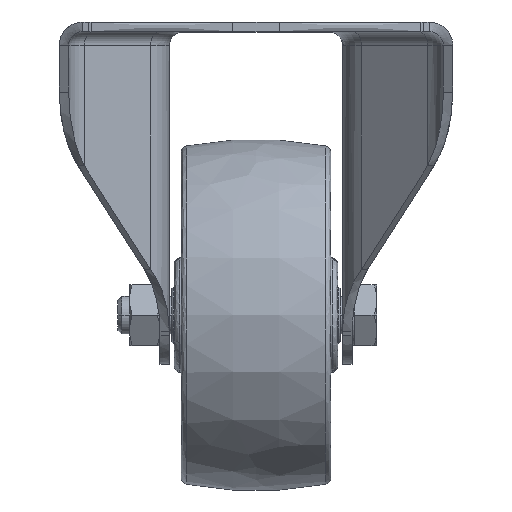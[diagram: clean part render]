
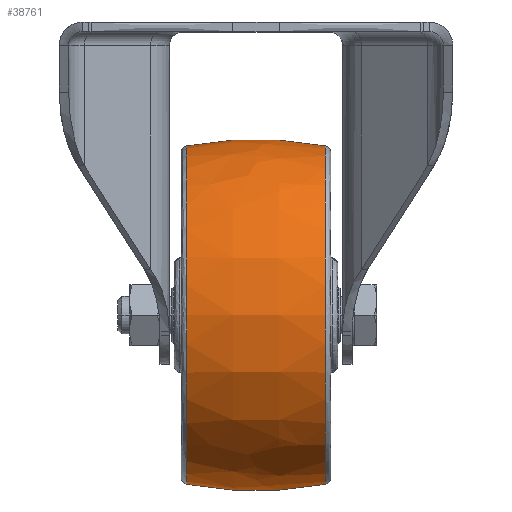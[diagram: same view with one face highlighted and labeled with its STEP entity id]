
A CAD part, top view. The second image highlights one B-rep face of the part: STEP entity #38761.
In plain terms, the highlighted free-form (B-spline) face has degree [3, 3] with [4, 4] control points.
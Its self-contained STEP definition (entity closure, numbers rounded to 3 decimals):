
#794 = CARTESIAN_POINT ( 'NONE',  ( -14.777, -26.377, 0. ) ) ;
#2449 = VERTEX_POINT ( 'NONE', #35500 ) ;
#2673 = CARTESIAN_POINT ( 'NONE',  ( -14.777, -62.5, 0. ) ) ;
#3734 = CARTESIAN_POINT ( 'NONE',  ( -14.777, -26.377, 0. ) ) ;
#3963 = CARTESIAN_POINT ( 'NONE',  ( -4.983, -100.464, 75.928 ) ) ;
#5848 = DIRECTION ( 'NONE',  ( 0., 1., 0. ) ) ;
#7104 = CARTESIAN_POINT ( 'NONE',  ( -4.983, -24.536, 0. ) ) ;
#8335 = EDGE_CURVE ( 'NONE', #9023, #26479, #22408, .T. ) ;
#9023 = VERTEX_POINT ( 'NONE', #3734 ) ;
#10258 = CARTESIAN_POINT ( 'NONE',  ( 4.983, -100.464, 75.928 ) ) ;
#11333 = DIRECTION ( 'NONE',  ( 0., 0., 1. ) ) ;
#11334 = CIRCLE ( 'NONE', #28624, 80. ) ;
#11688 = FACE_OUTER_BOUND ( 'NONE', #28360, .T. ) ;
#12865 = DIRECTION ( 'NONE',  ( -1., 0., 0. ) ) ;
#12938 = EDGE_CURVE ( 'NONE', #9023, #2449, #36056, .T. ) ;
#13382 = CARTESIAN_POINT ( 'NONE',  ( 4.983, -24.536, 0. ) ) ;
#14245 = ORIENTED_EDGE ( 'NONE', *, *, #12938, .F. ) ;
#15823 = AXIS2_PLACEMENT_3D ( 'NONE', #31642, #12865, #34796 ) ;
#16002 =( BOUNDED_SURFACE ( )  B_SPLINE_SURFACE ( 3, 3, ( 
 ( #35154, #16391, #19530, #794 ),
 ( #22654, #3963, #25851, #7104 ),
 ( #29015, #10258, #32174, #13382 ),
 ( #35292, #16527, #38457, #19656 ) ),
 .UNSPECIFIED., .F., .F., .F. ) 
 B_SPLINE_SURFACE_WITH_KNOTS ( ( 4, 4 ),
 ( 4, 4 ),
 ( 0., 1. ),
 ( 0., 1. ),
 .UNSPECIFIED. ) 
 GEOMETRIC_REPRESENTATION_ITEM ( )  RATIONAL_B_SPLINE_SURFACE ( (
 ( 1., 0.333, 0.333, 1.),
 ( 0.989, 0.33, 0.33, 0.989),
 ( 0.989, 0.33, 0.33, 0.989),
 ( 1., 0.333, 0.333, 1.) ) ) 
 REPRESENTATION_ITEM ( '' )  SURFACE ( )  );
#16391 = CARTESIAN_POINT ( 'NONE',  ( -14.777, -98.623, 72.247 ) ) ;
#16527 = CARTESIAN_POINT ( 'NONE',  ( 14.777, -98.623, 72.247 ) ) ;
#17197 = ORIENTED_EDGE ( 'NONE', *, *, #17585, .T. ) ;
#17585 = EDGE_CURVE ( 'NONE', #26479, #36777, #11334, .T. ) ;
#17938 = DIRECTION ( 'NONE',  ( 0., 0., -1. ) ) ;
#19530 = CARTESIAN_POINT ( 'NONE',  ( -14.777, -26.377, 72.247 ) ) ;
#19656 = CARTESIAN_POINT ( 'NONE',  ( 14.777, -26.377, 0. ) ) ;
#22408 = CIRCLE ( 'NONE', #29079, 36.123 ) ;
#22654 = CARTESIAN_POINT ( 'NONE',  ( -4.983, -100.464, 0. ) ) ;
#24575 = DIRECTION ( 'NONE',  ( 1., 0., 0. ) ) ;
#25311 = ORIENTED_EDGE ( 'NONE', *, *, #36089, .T. ) ;
#25851 = CARTESIAN_POINT ( 'NONE',  ( -4.983, -24.536, 75.928 ) ) ;
#26479 = VERTEX_POINT ( 'NONE', #27238 ) ;
#27093 = AXIS2_PLACEMENT_3D ( 'NONE', #36720, #17938, #39882 ) ;
#27238 = CARTESIAN_POINT ( 'NONE',  ( -14.777, -98.623, 0. ) ) ;
#28257 = ORIENTED_EDGE ( 'NONE', *, *, #8335, .T. ) ;
#28360 = EDGE_LOOP ( 'NONE', ( #28257, #17197, #25311, #14245 ) ) ;
#28624 = AXIS2_PLACEMENT_3D ( 'NONE', #30106, #11333, #33266 ) ;
#29015 = CARTESIAN_POINT ( 'NONE',  ( 4.983, -100.464, 0. ) ) ;
#29079 = AXIS2_PLACEMENT_3D ( 'NONE', #2673, #24575, #5848 ) ;
#29933 = CIRCLE ( 'NONE', #15823, 36.123 ) ;
#30106 = CARTESIAN_POINT ( 'NONE',  ( 0., -20., 0. ) ) ;
#31642 = CARTESIAN_POINT ( 'NONE',  ( 14.777, -62.5, 0. ) ) ;
#32174 = CARTESIAN_POINT ( 'NONE',  ( 4.983, -24.536, 75.928 ) ) ;
#33266 = DIRECTION ( 'NONE',  ( 0., -1., 0. ) ) ;
#34796 = DIRECTION ( 'NONE',  ( 0., 1., 0. ) ) ;
#35154 = CARTESIAN_POINT ( 'NONE',  ( -14.777, -98.623, 0. ) ) ;
#35292 = CARTESIAN_POINT ( 'NONE',  ( 14.777, -98.623, 0. ) ) ;
#35500 = CARTESIAN_POINT ( 'NONE',  ( 14.777, -26.377, 0. ) ) ;
#36056 = CIRCLE ( 'NONE', #27093, 80. ) ;
#36089 = EDGE_CURVE ( 'NONE', #36777, #2449, #29933, .T. ) ;
#36504 = CARTESIAN_POINT ( 'NONE',  ( 14.777, -98.623, 0. ) ) ;
#36720 = CARTESIAN_POINT ( 'NONE',  ( 0., -105., 0. ) ) ;
#36777 = VERTEX_POINT ( 'NONE', #36504 ) ;
#38457 = CARTESIAN_POINT ( 'NONE',  ( 14.777, -26.377, 72.247 ) ) ;
#38761 = ADVANCED_FACE ( 'NONE', ( #11688 ), #16002, .T. ) ;
#39882 = DIRECTION ( 'NONE',  ( 0., 1., 0. ) ) ;
